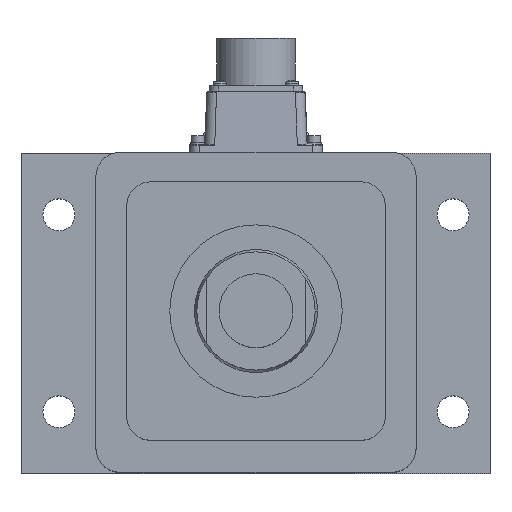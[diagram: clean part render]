
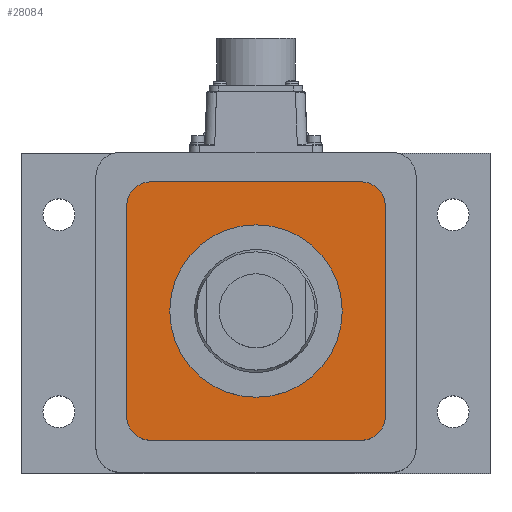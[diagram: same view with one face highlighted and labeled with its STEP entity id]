
A CAD part, top view. The second image highlights one B-rep face of the part: STEP entity #28084.
In plain terms, the highlighted planar face has unit normal (0, 0, 1).
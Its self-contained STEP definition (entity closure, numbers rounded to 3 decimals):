
#1459 = CARTESIAN_POINT ( 'NONE',  ( 42.5, -42.5, 270. ) ) ;
#1660 = CIRCLE ( 'NONE', #20078, 10. ) ;
#2153 = DIRECTION ( 'NONE',  ( 0., 0., 1. ) ) ;
#2286 = CARTESIAN_POINT ( 'NONE',  ( 42.5, 42.5, 270. ) ) ;
#2289 = EDGE_LOOP ( 'NONE', ( #14886, #27449 ) ) ;
#2354 = CIRCLE ( 'NONE', #2455, 10. ) ;
#2455 = AXIS2_PLACEMENT_3D ( 'NONE', #2286, #11025, #15633 ) ;
#2685 = VERTEX_POINT ( 'NONE', #17767 ) ;
#2916 = EDGE_CURVE ( 'NONE', #20602, #4337, #4199, .T. ) ;
#3229 = LINE ( 'NONE', #26733, #27769 ) ;
#3278 = VERTEX_POINT ( 'NONE', #23248 ) ;
#3354 = DIRECTION ( 'NONE',  ( 1., 0., 0. ) ) ;
#3974 = VERTEX_POINT ( 'NONE', #27933 ) ;
#3993 = LINE ( 'NONE', #25589, #21765 ) ;
#4199 = CIRCLE ( 'NONE', #19169, 35. ) ;
#4337 = VERTEX_POINT ( 'NONE', #16402 ) ;
#4438 = CARTESIAN_POINT ( 'NONE',  ( 42.5, 52.5, 270. ) ) ;
#4449 = ORIENTED_EDGE ( 'NONE', *, *, #25669, .T. ) ;
#5104 = ORIENTED_EDGE ( 'NONE', *, *, #22461, .T. ) ;
#5523 = EDGE_CURVE ( 'NONE', #10637, #13207, #2354, .T. ) ;
#5569 = FACE_OUTER_BOUND ( 'NONE', #16615, .T. ) ;
#5937 = CIRCLE ( 'NONE', #15264, 10. ) ;
#6145 = ORIENTED_EDGE ( 'NONE', *, *, #12894, .T. ) ;
#6321 = DIRECTION ( 'NONE',  ( 1., 0., 0. ) ) ;
#6727 = PLANE ( 'NONE',  #16101 ) ;
#6945 = FACE_BOUND ( 'NONE', #2289, .T. ) ;
#7386 = DIRECTION ( 'NONE',  ( -1., 0., 0. ) ) ;
#8922 = CARTESIAN_POINT ( 'NONE',  ( 42.5, 42.5, 270. ) ) ;
#9140 = ORIENTED_EDGE ( 'NONE', *, *, #5523, .T. ) ;
#9530 = DIRECTION ( 'NONE',  ( 0., 1., 0. ) ) ;
#10637 = VERTEX_POINT ( 'NONE', #22207 ) ;
#10963 = EDGE_CURVE ( 'NONE', #19885, #3974, #23155, .T. ) ;
#11025 = DIRECTION ( 'NONE',  ( 0., 0., 1. ) ) ;
#11091 = CARTESIAN_POINT ( 'NONE',  ( -42.5, -42.5, 270. ) ) ;
#11110 = DIRECTION ( 'NONE',  ( 1., 0., 0. ) ) ;
#11327 = VERTEX_POINT ( 'NONE', #22520 ) ;
#11761 = CARTESIAN_POINT ( 'NONE',  ( -42.5, 42.5, 270. ) ) ;
#11909 = CIRCLE ( 'NONE', #15292, 35. ) ;
#11918 = DIRECTION ( 'NONE',  ( 0., 0., 1. ) ) ;
#12194 = CARTESIAN_POINT ( 'NONE',  ( 0., 0., 270. ) ) ;
#12425 = CARTESIAN_POINT ( 'NONE',  ( -52.5, -42.5, 270. ) ) ;
#12894 = EDGE_CURVE ( 'NONE', #3974, #25621, #17867, .T. ) ;
#13207 = VERTEX_POINT ( 'NONE', #26793 ) ;
#13854 = ORIENTED_EDGE ( 'NONE', *, *, #10963, .T. ) ;
#14798 = VECTOR ( 'NONE', #27915, 1000. ) ;
#14880 = EDGE_CURVE ( 'NONE', #4337, #20602, #11909, .T. ) ;
#14886 = ORIENTED_EDGE ( 'NONE', *, *, #14880, .F. ) ;
#15264 = AXIS2_PLACEMENT_3D ( 'NONE', #1459, #20805, #18773 ) ;
#15292 = AXIS2_PLACEMENT_3D ( 'NONE', #17403, #2153, #6321 ) ;
#15420 = DIRECTION ( 'NONE',  ( -1., 0., 0. ) ) ;
#15633 = DIRECTION ( 'NONE',  ( 1., 0., 0. ) ) ;
#16016 = ORIENTED_EDGE ( 'NONE', *, *, #20834, .T. ) ;
#16087 = LINE ( 'NONE', #4438, #17121 ) ;
#16101 = AXIS2_PLACEMENT_3D ( 'NONE', #8922, #24204, #11110 ) ;
#16259 = DIRECTION ( 'NONE',  ( 0., 0., 1. ) ) ;
#16402 = CARTESIAN_POINT ( 'NONE',  ( -35., 0., 270. ) ) ;
#16615 = EDGE_LOOP ( 'NONE', ( #9140, #5104, #25540, #4449, #13854, #6145, #16016, #26974 ) ) ;
#16979 = CARTESIAN_POINT ( 'NONE',  ( 42.5, -52.5, 270. ) ) ;
#17121 = VECTOR ( 'NONE', #28076, 1000. ) ;
#17403 = CARTESIAN_POINT ( 'NONE',  ( 0., 0., 270. ) ) ;
#17767 = CARTESIAN_POINT ( 'NONE',  ( 52.5, -42.5, 270. ) ) ;
#17867 = LINE ( 'NONE', #16979, #14798 ) ;
#18773 = DIRECTION ( 'NONE',  ( -1., 0., 0. ) ) ;
#19169 = AXIS2_PLACEMENT_3D ( 'NONE', #12194, #11918, #3354 ) ;
#19197 = AXIS2_PLACEMENT_3D ( 'NONE', #11091, #19406, #15420 ) ;
#19406 = DIRECTION ( 'NONE',  ( 0., 0., 1. ) ) ;
#19885 = VERTEX_POINT ( 'NONE', #12425 ) ;
#20078 = AXIS2_PLACEMENT_3D ( 'NONE', #11761, #16259, #7386 ) ;
#20602 = VERTEX_POINT ( 'NONE', #26721 ) ;
#20805 = DIRECTION ( 'NONE',  ( 0., 0., 1. ) ) ;
#20834 = EDGE_CURVE ( 'NONE', #25621, #2685, #5937, .T. ) ;
#21765 = VECTOR ( 'NONE', #25693, 1000. ) ;
#22207 = CARTESIAN_POINT ( 'NONE',  ( 52.5, 42.5, 270. ) ) ;
#22461 = EDGE_CURVE ( 'NONE', #13207, #3278, #16087, .T. ) ;
#22520 = CARTESIAN_POINT ( 'NONE',  ( -52.5, 42.5, 270. ) ) ;
#23155 = CIRCLE ( 'NONE', #19197, 10. ) ;
#23248 = CARTESIAN_POINT ( 'NONE',  ( -42.5, 52.5, 270. ) ) ;
#24204 = DIRECTION ( 'NONE',  ( 0., 0., 1. ) ) ;
#25478 = EDGE_CURVE ( 'NONE', #3278, #11327, #1660, .T. ) ;
#25540 = ORIENTED_EDGE ( 'NONE', *, *, #25478, .T. ) ;
#25589 = CARTESIAN_POINT ( 'NONE',  ( -52.5, -42.5, 270. ) ) ;
#25621 = VERTEX_POINT ( 'NONE', #27586 ) ;
#25669 = EDGE_CURVE ( 'NONE', #11327, #19885, #3993, .T. ) ;
#25693 = DIRECTION ( 'NONE',  ( 0., -1., 0. ) ) ;
#26721 = CARTESIAN_POINT ( 'NONE',  ( 35., 0., 270. ) ) ;
#26733 = CARTESIAN_POINT ( 'NONE',  ( 52.5, -42.5, 270. ) ) ;
#26793 = CARTESIAN_POINT ( 'NONE',  ( 42.5, 52.5, 270. ) ) ;
#26974 = ORIENTED_EDGE ( 'NONE', *, *, #27115, .T. ) ;
#27115 = EDGE_CURVE ( 'NONE', #2685, #10637, #3229, .T. ) ;
#27449 = ORIENTED_EDGE ( 'NONE', *, *, #2916, .F. ) ;
#27586 = CARTESIAN_POINT ( 'NONE',  ( 42.5, -52.5, 270. ) ) ;
#27769 = VECTOR ( 'NONE', #9530, 1000. ) ;
#27915 = DIRECTION ( 'NONE',  ( 1., 0., 0. ) ) ;
#27933 = CARTESIAN_POINT ( 'NONE',  ( -42.5, -52.5, 270. ) ) ;
#28076 = DIRECTION ( 'NONE',  ( -1., 0., 0. ) ) ;
#28084 = ADVANCED_FACE ( 'NONE', ( #5569, #6945 ), #6727, .T. ) ;
